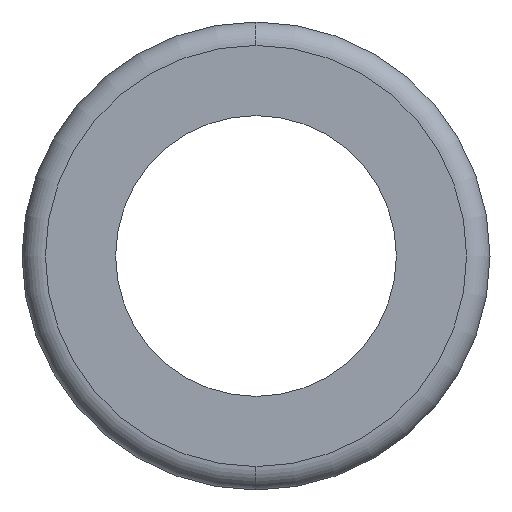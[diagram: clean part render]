
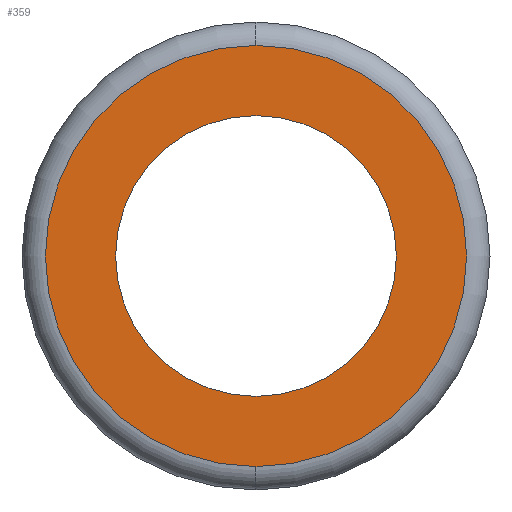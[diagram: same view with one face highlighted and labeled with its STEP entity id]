
A CAD part, left-side view. The second image highlights one B-rep face of the part: STEP entity #359.
In plain terms, the highlighted planar face has unit normal (-1, 0, 0).
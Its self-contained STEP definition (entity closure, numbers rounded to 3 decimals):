
#2 = EDGE_LOOP ( 'NONE', ( #255, #266 ) ) ;
#15 = AXIS2_PLACEMENT_3D ( 'NONE', #131, #153, #226 ) ;
#23 = ORIENTED_EDGE ( 'NONE', *, *, #391, .T. ) ;
#27 = CARTESIAN_POINT ( 'NONE',  ( 0., 0., 0. ) ) ;
#28 = ORIENTED_EDGE ( 'NONE', *, *, #179, .T. ) ;
#40 = CARTESIAN_POINT ( 'NONE',  ( 0., 0., -6. ) ) ;
#45 = CARTESIAN_POINT ( 'NONE',  ( 0., 0., 9. ) ) ;
#53 = DIRECTION ( 'NONE',  ( 0., 0., 1. ) ) ;
#80 = FACE_BOUND ( 'NONE', #2, .T. ) ;
#84 = VERTEX_POINT ( 'NONE', #40 ) ;
#93 = CIRCLE ( 'NONE', #15, 6. ) ;
#101 = DIRECTION ( 'NONE',  ( -1., 0., 0. ) ) ;
#109 = CARTESIAN_POINT ( 'NONE',  ( 0., 0., 0. ) ) ;
#110 = AXIS2_PLACEMENT_3D ( 'NONE', #127, #229, #260 ) ;
#121 = EDGE_CURVE ( 'NONE', #306, #84, #377, .T. ) ;
#125 = DIRECTION ( 'NONE',  ( 0., 0., -1. ) ) ;
#127 = CARTESIAN_POINT ( 'NONE',  ( 0., 0., 0. ) ) ;
#131 = CARTESIAN_POINT ( 'NONE',  ( 0., 0., 0. ) ) ;
#132 = AXIS2_PLACEMENT_3D ( 'NONE', #27, #101, #53 ) ;
#135 = CIRCLE ( 'NONE', #204, 9. ) ;
#153 = DIRECTION ( 'NONE',  ( -1., 0., 0. ) ) ;
#158 = VERTEX_POINT ( 'NONE', #378 ) ;
#179 = EDGE_CURVE ( 'NONE', #414, #158, #267, .T. ) ;
#204 = AXIS2_PLACEMENT_3D ( 'NONE', #109, #337, #361 ) ;
#226 = DIRECTION ( 'NONE',  ( 0., 0., 1. ) ) ;
#228 = EDGE_LOOP ( 'NONE', ( #23, #28 ) ) ;
#229 = DIRECTION ( 'NONE',  ( -1., 0., 0. ) ) ;
#231 = CARTESIAN_POINT ( 'NONE',  ( 0., 0., 6. ) ) ;
#255 = ORIENTED_EDGE ( 'NONE', *, *, #121, .F. ) ;
#259 = AXIS2_PLACEMENT_3D ( 'NONE', #277, #316, #125 ) ;
#260 = DIRECTION ( 'NONE',  ( 0., 0., -1. ) ) ;
#266 = ORIENTED_EDGE ( 'NONE', *, *, #358, .F. ) ;
#267 = CIRCLE ( 'NONE', #110, 9. ) ;
#277 = CARTESIAN_POINT ( 'NONE',  ( 0., 6., 0. ) ) ;
#306 = VERTEX_POINT ( 'NONE', #231 ) ;
#316 = DIRECTION ( 'NONE',  ( 1., 0., 0. ) ) ;
#337 = DIRECTION ( 'NONE',  ( -1., 0., 0. ) ) ;
#339 = FACE_OUTER_BOUND ( 'NONE', #228, .T. ) ;
#358 = EDGE_CURVE ( 'NONE', #84, #306, #93, .T. ) ;
#359 = ADVANCED_FACE ( 'NONE', ( #339, #80 ), #384, .F. ) ;
#361 = DIRECTION ( 'NONE',  ( 0., 0., -1. ) ) ;
#377 = CIRCLE ( 'NONE', #132, 6. ) ;
#378 = CARTESIAN_POINT ( 'NONE',  ( 0., 0., -9. ) ) ;
#384 = PLANE ( 'NONE',  #259 ) ;
#391 = EDGE_CURVE ( 'NONE', #158, #414, #135, .T. ) ;
#414 = VERTEX_POINT ( 'NONE', #45 ) ;
